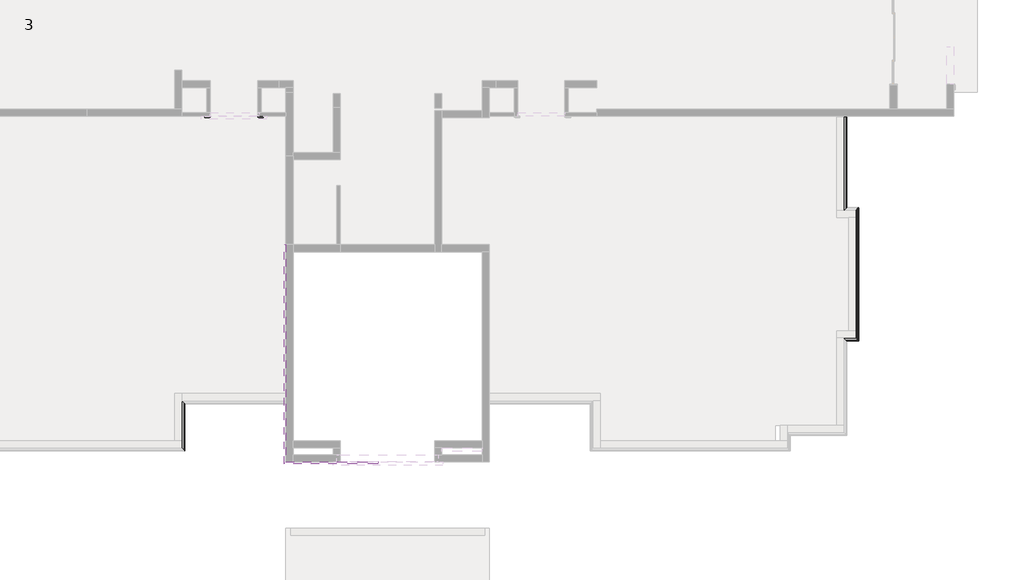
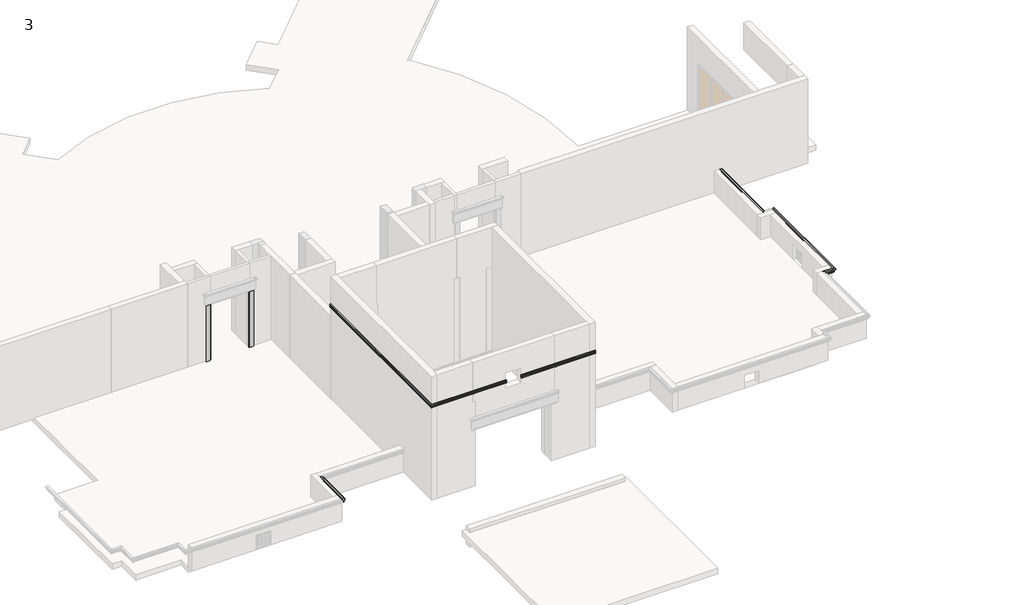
# One storey, part 8 of 12: 4 proxies.
"""IFC4 building model written with IfcOpenShell, lengths in millimetres."""

import ifcopenshell
import ifcopenshell.guid

model = None  # the IFC model being written
_history = None  # IfcOwnerHistory: only IFC2X3 demands one
_inside = {}  # id of a spatial element -> (the spatial element, [elements in it])
_under = {}  # id of a project, library or spatial element -> (it, [spatial elements below it])
_declared = {}  # id of a project -> (the project, [libraries it declares])
_typed = {}  # id of a type object -> (the type object, [elements of that type])
_made_of = {}  # id of a material, layer set ... -> (it, [elements and type objects made of it])


def new_model(schema):
    """Start an empty IFC model of exactly this schema.

    Asked for "IFC4X3", IfcOpenShell would pick the latest addendum, in which some entities
    have other attributes; the version numbers below select the first issue.
    IFC2X3 requires an IfcOwnerHistory on every rooted entity: one is made here for all.
    """
    global model, _history
    if schema == "IFC4X3":
        model = ifcopenshell.file(schema_version=(4, 3, 0, 0))
    else:
        model = ifcopenshell.file(schema=schema)
    _inside.clear()
    _under.clear()
    _declared.clear()
    _typed.clear()
    _made_of.clear()
    _history = None
    if model.schema == "IFC2X3":
        org = make("IfcOrganization", Name="unknown")
        user = make(
            "IfcPersonAndOrganization",
            ThePerson=make("IfcPerson", FamilyName="unknown"),
            TheOrganization=org,
        )
        app = make(
            "IfcApplication",
            ApplicationDeveloper=org,
            Version="unknown",
            ApplicationFullName="unknown",
            ApplicationIdentifier="unknown",
        )
        _history = make(
            "IfcOwnerHistory",
            OwningUser=user,
            OwningApplication=app,
            ChangeAction="ADDED",
            CreationDate=0,
        )
    return model


def make(cls, **values):
    """One entity of the class cls with the attributes given. An attribute that is None is left unset."""
    return model.create_entity(
        cls, **{name: value for name, value in values.items() if value is not None}
    )


def rooted(cls, **values):
    """An entity with a GlobalId (a new one), such as an element, a storey or a relation."""
    return make(cls, GlobalId=ifcopenshell.guid.new(), OwnerHistory=_history, **values)


def si_unit(unit_type, name, prefix=None):
    """IfcSIUnit, for example si_unit("LENGTHUNIT", "METRE", prefix="MILLI")."""
    return make("IfcSIUnit", UnitType=unit_type, Prefix=prefix, Name=name)


def assignment(units):
    """IfcUnitAssignment: the units of a project."""
    return None if units is None else make("IfcUnitAssignment", Units=units)


def point(xyz):
    """IfcCartesianPoint."""
    return None if xyz is None else make("IfcCartesianPoint", Coordinates=xyz)


def direction(xyz):
    """IfcDirection."""
    return None if xyz is None else make("IfcDirection", DirectionRatios=xyz)


def frame(location, z_axis=None, x_axis=None):
    """IfcAxis2Placement3D, a coordinate frame: its origin and axes. An axis left out is left unset."""
    return make(
        "IfcAxis2Placement3D",
        Location=point(location),
        Axis=direction(z_axis),
        RefDirection=direction(x_axis),
    )


def origin():
    """The frame at (0, 0, 0) with its axes left unset."""
    return frame((0.0, 0.0, 0.0))


def place(relative_to, where):
    """IfcLocalPlacement: puts the frame where relative to a parent placement (None: the world)."""
    return make(
        "IfcLocalPlacement", PlacementRelTo=relative_to, RelativePlacement=where
    )


def context(
    kind, dimensions, precision=None, world=None, true_north=None, identifier=None
):
    """IfcGeometricRepresentationContext, for example the 3D "Model" context."""
    return make(
        "IfcGeometricRepresentationContext",
        ContextIdentifier=identifier,
        ContextType=kind,
        CoordinateSpaceDimension=dimensions,
        Precision=precision,
        WorldCoordinateSystem=world,
        TrueNorth=true_north,
    )


def project(units=None, contexts=None):
    """IfcProject with its units and contexts."""
    return rooted(
        "IfcProject",
        Name="project",
        RepresentationContexts=contexts,
        UnitsInContext=assignment(units),
    )


def spatial(cls, under=None, at=None, **own):
    """A site, building, storey or space (cls), placed at a placement, below another one or the project."""
    s = rooted(cls, ObjectPlacement=at, **own)
    if under is not None:
        _under.setdefault(under.id(), (under, []))[1].append(s)
    return s


def polyline(points):
    """IfcPolyline through the points."""
    return make("IfcPolyline", Points=[point(p) for p in points])


def circle_curve(where, radius):
    """IfcCircle in the frame where."""
    return make("IfcCircle", Position=where, Radius=radius)


def ellipse_curve(where, semi_axis1, semi_axis2):
    """IfcEllipse in the frame where."""
    return make(
        "IfcEllipse", Position=where, SemiAxis1=semi_axis1, SemiAxis2=semi_axis2
    )


def outline(outer, holes=None, kind="AREA"):
    """IfcArbitraryClosedProfileDef: a profile drawn as a closed curve; with holes, ...WithVoids."""
    if holes is None:
        return make("IfcArbitraryClosedProfileDef", ProfileType=kind, OuterCurve=outer)
    return make(
        "IfcArbitraryProfileDefWithVoids",
        ProfileType=kind,
        OuterCurve=outer,
        InnerCurves=holes,
    )


def extrude(swept, where, along, depth):
    """IfcExtrudedAreaSolid: the profile swept, set in the frame where, extruded along a direction by depth."""
    return make(
        "IfcExtrudedAreaSolid",
        SweptArea=swept,
        Position=where,
        ExtrudedDirection=direction(along),
        Depth=depth,
    )


def shape(context_of_items, identifier, shape_type, items):
    """IfcShapeRepresentation: the items that make up one representation, for example the "Body"."""
    return make(
        "IfcShapeRepresentation",
        ContextOfItems=context_of_items,
        RepresentationIdentifier=identifier,
        RepresentationType=shape_type,
        Items=items,
    )


def made_of(thing, what):
    """Note that an element or type object is made of a material, layer set ...; save() writes the relation."""
    if what is not None:
        _made_of.setdefault(what.id(), (what, []))[1].append(thing)
    return thing


def element(
    cls,
    number,
    at=None,
    inside=None,
    cuts=None,
    type_object=None,
    material=None,
    context=None,
    identifier="Body",
    shape_type=None,
    held_by="IfcProductDefinitionShape",
    body=None,
    shapes=None,
    **own,
):
    """One element of the class cls, such as IfcWall. Its Tag is "e" and its number.

    at: its placement. inside: the storey or other place that contains it. cuts: it is an
    opening in that element (IfcRelVoidsElement). A single representation is given by context,
    identifier, shape_type and body (its items); several are given by shapes. held_by: the class
    of the entity that holds the representations. save() writes the other relations.
    """
    e = rooted(cls, Tag="e%d" % number, ObjectPlacement=at, **own)
    if body is not None:
        shapes = [shape(context, identifier, shape_type, body)]
    if shapes is not None:
        e.Representation = make(held_by, Representations=shapes)
    if inside is not None:
        _inside.setdefault(inside.id(), (inside, []))[1].append(e)
    if cuts is not None:
        rooted(
            "IfcRelVoidsElement", RelatingBuildingElement=cuts, RelatedOpeningElement=e
        )
    if type_object is not None:
        _typed.setdefault(type_object.id(), (type_object, []))[1].append(e)
    return made_of(e, material)


def aggregate(whole, parts):
    """IfcRelAggregates: a whole, such as a stair, and the parts it consists of."""
    return rooted("IfcRelAggregates", RelatingObject=whole, RelatedObjects=parts)


def save(model, path):
    """Write the relations noted so far, then the file.

    IfcRelAggregates (storeys below a building ...), IfcRelContainedInSpatialStructure (elements
    in a storey), IfcRelDefinesByType, IfcRelAssociatesMaterial and IfcRelDeclares: one each for
    every whole, place, type object, material and project.
    """
    for whole, parts in _under.values():
        aggregate(whole, parts)
    for where, things in _inside.values():
        rooted(
            "IfcRelContainedInSpatialStructure",
            RelatedElements=things,
            RelatingStructure=where,
        )
    for kind, things in _typed.values():
        rooted("IfcRelDefinesByType", RelatedObjects=things, RelatingType=kind)
    for what, things in _made_of.values():
        rooted("IfcRelAssociatesMaterial", RelatedObjects=things, RelatingMaterial=what)
    for by, libraries in _declared.values():
        rooted("IfcRelDeclares", RelatingContext=by, RelatedDefinitions=libraries)
    model.write(path)


def plane_surface(at):
    """IfcPlane: the flat surface through the origin of the frame at, square to its z axis."""
    return make("IfcPlane", Position=at)


def cylinder_surface(at, radius):
    """IfcCylindricalSurface: all points at the distance radius from the z axis of the frame at."""
    return make("IfcCylindricalSurface", Position=at, Radius=radius)


def revolved_surface(curve, axis_point, axis_direction):
    """IfcSurfaceOfRevolution: the curve turned about the line through axis_point along axis_direction."""
    return make(
        "IfcSurfaceOfRevolution",
        SweptCurve=make("IfcArbitraryOpenProfileDef", ProfileType="CURVE", Curve=curve),
        AxisPosition=make("IfcAxis1Placement", Location=point(axis_point), Axis=direction(axis_direction)),
    )


def advanced_brep(points, edges, surfaces, faces):
    """IfcAdvancedBrep: a solid bounded by faces that lie on surfaces and meet in shared edges.

    An edge is (start, end): straight between two places in points (the first is 0);
    or (start, end, curve); or (start, end, curve, False) where it runs against its curve.
    A face is (place in surfaces, loops), or (place, loops, False) where it looks against
    its surface's normal. A loop lists edges by number (the first is 1), with a minus sign
    where the edge is run from its end to its start. The first loop is the outer one.
    """
    corners = [point(p) for p in points]
    vertices = [make("IfcVertexPoint", VertexGeometry=c) for c in corners]
    made = []
    for start, end, *more in edges:
        made.append(
            make(
                "IfcEdgeCurve",
                EdgeStart=vertices[start],
                EdgeEnd=vertices[end],
                EdgeGeometry=more[0] if more else make("IfcPolyline", Points=[corners[start], corners[end]]),
                SameSense=more[1] if len(more) > 1 else True,
            )
        )
    hull = []
    for where, loops, *sense in faces:
        bounds = []
        for j, loop in enumerate(loops):
            ring = [make("IfcOrientedEdge", EdgeElement=made[abs(k) - 1], Orientation=k > 0) for k in loop]
            bounds.append(
                make(
                    "IfcFaceOuterBound" if j == 0 else "IfcFaceBound",
                    Bound=make("IfcEdgeLoop", EdgeList=ring),
                    Orientation=True,
                )
            )
        hull.append(make("IfcAdvancedFace", Bounds=bounds, FaceSurface=surfaces[where], SameSense=sense[0] if sense else True))
    return make("IfcAdvancedBrep", Outer=make("IfcClosedShell", CfsFaces=hull))


model = new_model("IFC4")

# Units and contexts
model_context = context("Model", 3, world=origin())
ifc_project = project(units=[si_unit("LENGTHUNIT", "METRE", prefix="MILLI")], contexts=[model_context])

# Site, building, storey
site = spatial("IfcSite", under=ifc_project)
building = spatial("IfcBuilding", under=site)
storey = spatial("IfcBuildingStorey", under=building, Name="3", Elevation=3581.4)

# Proxies
placement = place(None, origin())
element("IfcBuildingElementProxy", 1, Name="Cornice", ObjectType="Cornice", at=placement, inside=storey, context=model_context, shape_type="SweptSolid", body=[
    extrude(outline(polyline([(-14287.7450906, -4496.3193311), (-14103.5950906, -4496.3193311), (-14103.5950906, -4534.4193311), (-14135.3450906, -4534.4193311), (-14135.3450906, -4547.1193311), (-14287.7450906, -4547.1193311), (-14287.7450906, -4496.3193311)])), frame((0.0, 0.0, 3581.4), z_axis=(0.0, 0.0, 1.0), x_axis=(1.0, 0.0, 0.0)), (0.0, 0.0, 1.0), 2438.4),
])
element("IfcBuildingElementProxy", 2, Name="Cornice", ObjectType="Cornice", at=placement, inside=storey, context=model_context, shape_type="SweptSolid", body=[
    extrude(outline(polyline([(-12395.4450906, -4496.3193311), (-12395.4450906, -4547.1193311), (-12547.8450906, -4547.1193311), (-12547.8450906, -4534.4193311), (-12579.5950906, -4534.4193311), (-12579.5950906, -4496.3193311), (-12395.4450906, -4496.3193311)])), frame((0.0, 0.0, 3581.4), z_axis=(0.0, 0.0, 1.0), x_axis=(1.0, 0.0, 0.0)), (0.0, 0.0, 1.0), 2438.4),
])
element("IfcBuildingElementProxy", 3, Name="Cornice 3", ObjectType="Cornice 3", at=placement, inside=storey, context=model_context, shape_type="AdvancedBrep", body=[
    advanced_brep(
    [(6393.2878641, -11734.5181763, 4572.0), (6317.0878641, -11658.3181763, 4572.0), (6317.0878641, -11658.3181763, 4419.6), (6367.8878641, -11709.1181763, 4419.6), (6367.8878641, -11709.1181763, 4438.65), (6367.8878641, -11709.1181763, 4457.7), (6367.8878641, -11709.1181763, 4483.1), (6375.0316141, -11716.2619263, 4483.1), (6393.2878641, -11734.5181763, 4512.5009114), (6393.2878641, -11734.5181763, 4527.55), (6774.1385697, -11734.5181763, 4572.0), (6774.1385697, -11734.5181763, 4527.55), (6774.1385697, -11734.5181763, 4512.5009114), (6755.8823197, -11716.2619263, 4483.1), (6748.7385697, -11709.1181763, 4483.1), (6748.7385697, -11709.1181763, 4457.7), (6748.7385697, -11709.1181763, 4438.65), (6748.7385697, -11709.1181763, 4419.6), (6697.9385697, -11658.3181763, 4419.6), (6697.9385697, -11658.3181763, 4572.0)],
    [
        (0, 1),
        (1, 2),
        (2, 3),
        (3, 4),
        (4, 5, ellipse_curve(frame((6367.8878641, -11709.1181763, 4448.175), z_axis=(-0.7071067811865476, -0.7071067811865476, 0.0), x_axis=(-0.7071067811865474, 0.7071067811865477, 0.0)), 13.4703842, 9.525)),
        (5, 6),
        (6, 7),
        (7, 8, ellipse_curve(frame((6396.5442626, -11737.7745748, 4490.1103895), z_axis=(0.7071067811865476, 0.7071067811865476, 0.0), x_axis=(0.7071067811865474, -0.7071067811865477, 0.0)), 31.9981126, 22.6260824)),
        (8, 9),
        (9, 0, ellipse_curve(frame((6393.2878641, -11734.5181763, 4549.775), z_axis=(-0.7071067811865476, -0.7071067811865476, 0.0), x_axis=(-0.7071067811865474, 0.7071067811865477, 0.0)), 31.4308964, 22.225)),
        (10, 11, ellipse_curve(frame((6774.1385697, -11734.5181763, 4549.775), z_axis=(0.7071067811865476, 0.7071067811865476, 0.0), x_axis=(-0.7071067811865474, 0.7071067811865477, 0.0)), 31.4308964, 22.225)),
        (11, 12),
        (12, 13, ellipse_curve(frame((6777.3949682, -11737.7745748, 4490.1103895), z_axis=(-0.7071067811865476, -0.7071067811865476, 0.0), x_axis=(0.7071067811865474, -0.7071067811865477, 0.0)), 31.9981126, 22.6260824)),
        (13, 14),
        (14, 15),
        (15, 16, ellipse_curve(frame((6748.7385697, -11709.1181763, 4448.175), z_axis=(0.7071067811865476, 0.7071067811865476, 0.0), x_axis=(-0.7071067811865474, 0.7071067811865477, 0.0)), 13.4703842, 9.525)),
        (16, 17),
        (17, 18),
        (18, 19),
        (19, 10),
        (0, 10),
        (19, 1),
        (18, 2),
        (17, 3),
        (16, 4),
        (15, 5),
        (14, 6),
        (13, 7),
        (12, 8),
        (11, 9),
    ],
    [
        plane_surface(frame((6317.0878641, -11658.3181763, 4724.4), z_axis=(-0.7071067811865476, -0.7071067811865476, 0.0), x_axis=(0.7071067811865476, -0.7071067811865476, 0.0))),
        plane_surface(frame((6697.9385697, -11658.3181763, 4114.8), z_axis=(0.7071067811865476, 0.7071067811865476, 0.0), x_axis=(-0.7071067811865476, 0.7071067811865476, 0.0))),
        plane_surface(frame((6393.2878641, -11734.5181763, 4572.0), z_axis=(0.0, 0.0, 1.0), x_axis=(1.0, 0.0, 0.0))),
        plane_surface(frame((6317.0878641, -11658.3181763, 4572.0), z_axis=(0.0, 1.0, 0.0), x_axis=(1.0, 0.0, 0.0))),
        plane_surface(frame((6317.0878641, -11658.3181763, 4419.6), z_axis=(0.0, 0.0, -1.0), x_axis=(1.0, 0.0, 0.0))),
        plane_surface(frame((6367.8878641, -11709.1181763, 4419.6), z_axis=(0.0, -1.0, 0.0), x_axis=(1.0, 0.0, 0.0))),
        cylinder_surface(frame((6317.0878641, -11709.1181763, 4448.175), z_axis=(-1.0, 0.0, 0.0), x_axis=(0.0, 1.0, 0.0)), 9.525),
        plane_surface(frame((6367.8878641, -11709.1181763, 4457.7), z_axis=(0.0, -1.0, 0.0), x_axis=(1.0, 0.0, 0.0))),
        plane_surface(frame((6367.8878641, -11709.1181763, 4483.1), z_axis=(0.0, 0.0, -1.0), x_axis=(1.0, 0.0, 0.0))),
        revolved_surface(polyline([(6800.021050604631, -11715.1484924, 4490.1103895), (6373.91818019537, -11715.1484924, 4490.1103895)]), (6317.0878641, -11737.7745748, 4490.1103895), (1.0, 0.0, 0.0)),
        plane_surface(frame((6393.2878641, -11734.5181763, 4512.5009114), z_axis=(0.0, -1.0, 0.0), x_axis=(1.0, 0.0, 0.0))),
        cylinder_surface(frame((6317.0878641, -11734.5181763, 4549.775), z_axis=(-1.0, 0.0, 0.0), x_axis=(0.0, 1.0, 0.0)), 22.225),
    ],
    [
        (0, [[1, 2, 3, 4, 5, 6, 7, 8, 9, 10]]),
        (1, [[11, 12, 13, 14, 15, 16, 17, 18, 19, 20]]),
        (2, [[-1, 21, -20, 22]]),
        (3, [[-2, -22, -19, 23]]),
        (4, [[-3, -23, -18, 24]]),
        (5, [[-4, -24, -17, 25]]),
        (6, [[-5, -25, -16, 26]]),
        (7, [[-6, -26, -15, 27]]),
        (8, [[-7, -27, -14, 28]]),
        (9, [[-8, -28, -13, 29]]),
        (10, [[-9, -29, -12, 30]]),
        (11, [[-10, -30, -11, -21]]),
    ],
),
    advanced_brep(
    [(6774.1385697, -11734.5181763, 4572.0), (6697.9385697, -11658.3181763, 4572.0), (6697.9385697, -11658.3181763, 4419.6), (6748.7385697, -11709.1181763, 4419.6), (6748.7385697, -11709.1181763, 4438.65), (6748.7385697, -11709.1181763, 4457.7), (6748.7385697, -11709.1181763, 4483.1), (6755.8823197, -11716.2619263, 4483.1), (6774.1385697, -11734.5181763, 4512.5009114), (6774.1385697, -11734.5181763, 4527.55), (6774.1385697, -7467.3181763, 4572.0), (6774.1385697, -7467.3181763, 4527.55), (6774.1385697, -7467.3181763, 4512.5009114), (6755.8823197, -7485.5744263, 4483.1), (6748.7385697, -7492.7181763, 4483.1), (6748.7385697, -7492.7181763, 4457.7), (6748.7385697, -7492.7181763, 4438.65), (6748.7385697, -7492.7181763, 4419.6), (6697.9385697, -7543.5181763, 4419.6), (6697.9385697, -7543.5181763, 4572.0)],
    [
        (0, 1),
        (1, 2),
        (2, 3),
        (3, 4),
        (4, 5, ellipse_curve(frame((6748.7385697, -11709.1181763, 4448.175), z_axis=(-0.7071067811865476, -0.7071067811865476, 0.0), x_axis=(0.7071067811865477, -0.7071067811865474, 0.0)), 13.4703842, 9.525)),
        (5, 6),
        (6, 7),
        (7, 8, ellipse_curve(frame((6777.3949682, -11737.7745748, 4490.1103895), z_axis=(0.7071067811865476, 0.7071067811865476, 0.0), x_axis=(-0.7071067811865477, 0.7071067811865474, 0.0)), 31.9981126, 22.6260824)),
        (8, 9),
        (9, 0, ellipse_curve(frame((6774.1385697, -11734.5181763, 4549.775), z_axis=(-0.7071067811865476, -0.7071067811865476, 0.0), x_axis=(0.7071067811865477, -0.7071067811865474, 0.0)), 31.4308964, 22.225)),
        (10, 11, ellipse_curve(frame((6774.1385697, -7467.3181763, 4549.775), z_axis=(-0.7071067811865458, 0.7071067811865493, 0.0), x_axis=(-0.7071067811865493, -0.7071067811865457, 0.0)), 31.4308964, 22.225)),
        (11, 12),
        (12, 13, ellipse_curve(frame((6777.3949682, -7464.0617778, 4490.1103895), z_axis=(0.7071067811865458, -0.7071067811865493, 0.0), x_axis=(0.7071067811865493, 0.7071067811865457, 0.0)), 31.9981126, 22.6260824)),
        (13, 14),
        (14, 15),
        (15, 16, ellipse_curve(frame((6748.7385697, -7492.7181763, 4448.175), z_axis=(-0.7071067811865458, 0.7071067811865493, 0.0), x_axis=(-0.7071067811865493, -0.7071067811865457, 0.0)), 13.4703842, 9.525)),
        (16, 17),
        (17, 18),
        (18, 19),
        (19, 10),
        (0, 10),
        (19, 1),
        (18, 2),
        (17, 3),
        (16, 4),
        (15, 5),
        (14, 6),
        (13, 7),
        (12, 8),
        (11, 9),
    ],
    [
        plane_surface(frame((6697.9385697, -11658.3181763, 4114.8), z_axis=(-0.7071067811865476, -0.7071067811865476, 0.0), x_axis=(-0.7071067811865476, 0.7071067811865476, 0.0))),
        plane_surface(frame((6697.9385697, -7543.5181763, 4114.8), z_axis=(-0.7071067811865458, 0.7071067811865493, 0.0), x_axis=(-0.7071067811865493, -0.7071067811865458, 0.0))),
        plane_surface(frame((6774.1385697, -11734.5181763, 4572.0), z_axis=(0.0, 0.0, 1.0), x_axis=(0.0, 1.0, 0.0))),
        plane_surface(frame((6697.9385697, -11658.3181763, 4572.0), z_axis=(-1.0, 0.0, 0.0), x_axis=(0.0, 1.0, 0.0))),
        plane_surface(frame((6697.9385697, -11658.3181763, 4419.6), z_axis=(0.0, 0.0, -1.0), x_axis=(0.0, 1.0, 0.0))),
        plane_surface(frame((6748.7385697, -11709.1181763, 4419.6), z_axis=(1.0, 0.0, 0.0), x_axis=(0.0, 1.0, 0.0))),
        cylinder_surface(frame((6748.7385697, -11658.3181763, 4448.175), z_axis=(0.0, -1.0, 0.0), x_axis=(-1.0, 0.0, 0.0)), 9.525),
        plane_surface(frame((6748.7385697, -11709.1181763, 4457.7), z_axis=(1.0, 0.0, 0.0), x_axis=(0.0, 1.0, 0.0))),
        plane_surface(frame((6748.7385697, -11709.1181763, 4483.1), z_axis=(0.0, 0.0, -1.0), x_axis=(0.0, 1.0, 0.0))),
        revolved_surface(polyline([(6754.7688858, -7441.435695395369, 4490.1103895), (6754.7688858, -11760.400657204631, 4490.1103895)]), (6777.3949682, -11658.3181763, 4490.1103895), (0.0, 1.0, 0.0)),
        plane_surface(frame((6774.1385697, -11734.5181763, 4512.5009114), z_axis=(1.0, 0.0, 0.0), x_axis=(0.0, 1.0, 0.0))),
        cylinder_surface(frame((6774.1385697, -11658.3181763, 4549.775), z_axis=(0.0, -1.0, 0.0), x_axis=(-1.0, 0.0, 0.0)), 22.225),
    ],
    [
        (0, [[1, 2, 3, 4, 5, 6, 7, 8, 9, 10]]),
        (1, [[11, 12, 13, 14, 15, 16, 17, 18, 19, 20]]),
        (2, [[-1, 21, -20, 22]]),
        (3, [[-2, -22, -19, 23]]),
        (4, [[-3, -23, -18, 24]]),
        (5, [[-4, -24, -17, 25]]),
        (6, [[-5, -25, -16, 26]]),
        (7, [[-6, -26, -15, 27]]),
        (8, [[-7, -27, -14, 28]]),
        (9, [[-8, -28, -13, 29]]),
        (10, [[-9, -29, -12, 30]]),
        (11, [[-10, -30, -11, -21]]),
    ],
),
    advanced_brep(
    [(6393.2878641, -7467.3181763, 4572.0), (6317.0878641, -7543.5181763, 4572.0), (6317.0878641, -7543.5181763, 4419.6), (6367.8878641, -7492.7181763, 4419.6), (6367.8878641, -7492.7181763, 4438.65), (6367.8878641, -7492.7181763, 4457.7), (6367.8878641, -7492.7181763, 4483.1), (6375.0316141, -7485.5744263, 4483.1), (6393.2878641, -7467.3181763, 4512.5009114), (6393.2878641, -7467.3181763, 4527.55), (6393.2878641, -4533.6181763, 4572.0), (6393.2878641, -4533.6181763, 4527.55), (6393.2878641, -4533.6181763, 4512.5009114), (6375.0316141, -4533.6181763, 4483.1), (6367.8878641, -4533.6181763, 4483.1), (6367.8878641, -4533.6181763, 4457.7), (6367.8878641, -4533.6181763, 4438.65), (6367.8878641, -4533.6181763, 4419.6), (6317.0878641, -4533.6181763, 4419.6), (6317.0878641, -4533.6181763, 4572.0)],
    [
        (0, 1),
        (1, 2),
        (2, 3),
        (3, 4),
        (4, 5, ellipse_curve(frame((6367.8878641, -7492.7181763, 4448.175), z_axis=(0.7071067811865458, -0.7071067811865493, 0.0), x_axis=(-0.7071067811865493, -0.7071067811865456, 0.0)), 13.4703842, 9.525)),
        (5, 6),
        (6, 7),
        (7, 8, ellipse_curve(frame((6396.5442626, -7464.0617778, 4490.1103895), z_axis=(-0.7071067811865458, 0.7071067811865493, 0.0), x_axis=(0.7071067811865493, 0.7071067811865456, 0.0)), 31.9981126, 22.6260824)),
        (8, 9),
        (9, 0, ellipse_curve(frame((6393.2878641, -7467.3181763, 4549.775), z_axis=(0.7071067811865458, -0.7071067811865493, 0.0), x_axis=(-0.7071067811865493, -0.7071067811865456, 0.0)), 31.4308964, 22.225)),
        (10, 11, circle_curve(frame((6393.2878641, -4533.6181763, 4549.775), z_axis=(0.0, 1.0, 0.0), x_axis=(-1.0, 0.0, 0.0)), 22.225)),
        (11, 12),
        (12, 13, circle_curve(frame((6396.5442626, -4533.6181763, 4490.1103895), z_axis=(0.0, -1.0, 0.0), x_axis=(-1.0, 0.0, 0.0)), 22.6260824)),
        (13, 14),
        (14, 15),
        (15, 16, circle_curve(frame((6367.8878641, -4533.6181763, 4448.175), z_axis=(0.0, 1.0, 0.0), x_axis=(-1.0, 0.0, 0.0)), 9.525)),
        (16, 17),
        (17, 18),
        (18, 19),
        (19, 10),
        (0, 10),
        (19, 1),
        (18, 2),
        (17, 3),
        (16, 4),
        (15, 5),
        (14, 6),
        (13, 7),
        (12, 8),
        (11, 9),
    ],
    [
        plane_surface(frame((6317.0878641, -7543.5181763, 4724.4), z_axis=(0.7071067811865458, -0.7071067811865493, 0.0), x_axis=(0.7071067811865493, 0.7071067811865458, 0.0))),
        plane_surface(frame((6144.1196571, -4533.6181763, 4419.6), z_axis=(0.0, 1.0, 0.0), x_axis=(0.0, 0.0, 1.0))),
        plane_surface(frame((6393.2878641, -7467.3181763, 4572.0), z_axis=(0.0, 0.0, 1.0), x_axis=(0.0, 1.0, 0.0))),
        plane_surface(frame((6317.0878641, -7543.5181763, 4572.0), z_axis=(-1.0, 0.0, 0.0), x_axis=(0.0, 1.0, 0.0))),
        plane_surface(frame((6317.0878641, -7543.5181763, 4419.6), z_axis=(0.0, 0.0, -1.0), x_axis=(0.0, 1.0, 0.0))),
        plane_surface(frame((6367.8878641, -7492.7181763, 4419.6), z_axis=(1.0, 0.0, 0.0), x_axis=(0.0, 1.0, 0.0))),
        cylinder_surface(frame((6367.8878641, -7543.5181763, 4448.175), z_axis=(0.0, -1.0, 0.0), x_axis=(-1.0, 0.0, 0.0)), 9.525),
        plane_surface(frame((6367.8878641, -7492.7181763, 4457.7), z_axis=(1.0, 0.0, 0.0), x_axis=(0.0, 1.0, 0.0))),
        plane_surface(frame((6367.8878641, -7492.7181763, 4483.1), z_axis=(0.0, 0.0, -1.0), x_axis=(0.0, 1.0, 0.0))),
        revolved_surface(polyline([(6373.9181802, -4533.6181763, 4490.1103895), (6373.9181802, -7486.68786020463, 4490.1103895)]), (6396.5442626, -7543.5181763, 4490.1103895), (0.0, 1.0, 0.0)),
        plane_surface(frame((6393.2878641, -7467.3181763, 4512.5009114), z_axis=(1.0, 0.0, 0.0), x_axis=(0.0, 1.0, 0.0))),
        cylinder_surface(frame((6393.2878641, -7543.5181763, 4549.775), z_axis=(0.0, -1.0, 0.0), x_axis=(-1.0, 0.0, 0.0)), 22.225),
    ],
    [
        (0, [[1, 2, 3, 4, 5, 6, 7, 8, 9, 10]]),
        (1, [[11, 12, 13, 14, 15, 16, 17, 18, 19, 20]]),
        (2, [[-1, 21, -20, 22]]),
        (3, [[-2, -22, -19, 23]]),
        (4, [[-3, -23, -18, 24]]),
        (5, [[-4, -24, -17, 25]]),
        (6, [[-5, -25, -16, 26]]),
        (7, [[-6, -26, -15, 27]]),
        (8, [[-7, -27, -14, 28]]),
        (9, [[-8, -28, -13, 29]]),
        (10, [[-9, -29, -12, 30]]),
        (11, [[-10, -30, -11, -21]]),
    ],
),
    advanced_brep(
    [(-14941.7950906, -15278.6193311, 4572.0), (-15017.9950906, -15202.4193311, 4572.0), (-15017.9950906, -15202.4193311, 4419.6), (-14967.1950906, -15253.2193311, 4419.6), (-14967.1950906, -15253.2193311, 4438.65), (-14967.1950906, -15253.2193311, 4457.7), (-14967.1950906, -15253.2193311, 4483.1), (-14960.0513406, -15260.3630811, 4483.1), (-14941.7950906, -15278.6193311, 4512.5009114), (-14941.7950906, -15278.6193311, 4527.55), (-14941.7950906, -13753.8181763, 4572.0), (-14941.7950906, -13753.8181763, 4527.55), (-14941.7950906, -13753.8181763, 4512.5009114), (-14960.0513406, -13735.5619263, 4483.1), (-14967.1950906, -13728.4181763, 4483.1), (-14967.1950906, -13728.4181763, 4457.7), (-14967.1950906, -13728.4181763, 4438.65), (-14967.1950906, -13728.4181763, 4419.6), (-15017.9950906, -13677.6181763, 4419.6), (-15017.9950906, -13677.6181763, 4572.0)],
    [
        (0, 1),
        (1, 2),
        (2, 3),
        (3, 4),
        (4, 5, ellipse_curve(frame((-14967.1950906, -15253.2193311, 4448.175), z_axis=(-0.7071067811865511, -0.707106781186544, 0.0), x_axis=(0.707106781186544, -0.707106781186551, 0.0)), 13.4703842, 9.525)),
        (5, 6),
        (6, 7),
        (7, 8, ellipse_curve(frame((-14938.5386921, -15281.8757296, 4490.1103895), z_axis=(0.7071067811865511, 0.707106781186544, 0.0), x_axis=(-0.707106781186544, 0.707106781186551, 0.0)), 31.9981126, 22.6260824)),
        (8, 9),
        (9, 0, ellipse_curve(frame((-14941.7950906, -15278.6193311, 4549.775), z_axis=(-0.7071067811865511, -0.707106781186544, 0.0), x_axis=(0.707106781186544, -0.707106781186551, 0.0)), 31.4308964, 22.225)),
        (10, 11, ellipse_curve(frame((-14941.7950906, -13753.8181763, 4549.775), z_axis=(0.7071067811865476, 0.7071067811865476, 0.0), x_axis=(0.7071067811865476, -0.7071067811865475, 0.0)), 31.4308964, 22.225)),
        (11, 12),
        (12, 13, ellipse_curve(frame((-14938.5386921, -13757.0745748, 4490.1103895), z_axis=(-0.7071067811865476, -0.7071067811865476, 0.0), x_axis=(-0.7071067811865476, 0.7071067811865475, 0.0)), 31.9981126, 22.6260824)),
        (13, 14),
        (14, 15),
        (15, 16, ellipse_curve(frame((-14967.1950906, -13728.4181763, 4448.175), z_axis=(0.7071067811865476, 0.7071067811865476, 0.0), x_axis=(0.7071067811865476, -0.7071067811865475, 0.0)), 13.4703842, 9.525)),
        (16, 17),
        (17, 18),
        (18, 19),
        (19, 10),
        (0, 10),
        (19, 1),
        (18, 2),
        (17, 3),
        (16, 4),
        (15, 5),
        (14, 6),
        (13, 7),
        (12, 8),
        (11, 9),
    ],
    [
        plane_surface(frame((-15017.9950906, -15202.4193311, 4114.8), z_axis=(-0.7071067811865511, -0.707106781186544, 0.0), x_axis=(-0.707106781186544, 0.7071067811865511, 0.0))),
        plane_surface(frame((-15017.9950906, -13677.6181763, 4724.4), z_axis=(0.7071067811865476, 0.7071067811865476, 0.0), x_axis=(0.7071067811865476, -0.7071067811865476, 0.0))),
        plane_surface(frame((-14941.7950906, -15278.6193311, 4572.0), z_axis=(0.0, 0.0, 1.0), x_axis=(0.0, 1.0, 0.0))),
        plane_surface(frame((-15017.9950906, -15202.4193311, 4572.0), z_axis=(-1.0, 0.0, 0.0), x_axis=(0.0, 1.0, 0.0))),
        plane_surface(frame((-15017.9950906, -15202.4193311, 4419.6), z_axis=(0.0, 0.0, -1.0), x_axis=(0.0, 1.0, 0.0))),
        plane_surface(frame((-14967.1950906, -15253.2193311, 4419.6), z_axis=(1.0, 0.0, 0.0), x_axis=(0.0, 1.0, 0.0))),
        cylinder_surface(frame((-14967.1950906, -15202.4193311, 4448.175), z_axis=(0.0, -1.0, 0.0), x_axis=(-1.0, 0.0, 0.0)), 9.525),
        plane_surface(frame((-14967.1950906, -15253.2193311, 4457.7), z_axis=(1.0, 0.0, 0.0), x_axis=(0.0, 1.0, 0.0))),
        plane_surface(frame((-14967.1950906, -15253.2193311, 4483.1), z_axis=(0.0, 0.0, -1.0), x_axis=(0.0, 1.0, 0.0))),
        revolved_surface(polyline([(-14961.164774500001, -13734.44849239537, 4490.1103895), (-14961.164774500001, -15304.501812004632, 4490.1103895)]), (-14938.5386921, -15202.4193311, 4490.1103895), (0.0, 1.0, 0.0)),
        plane_surface(frame((-14941.7950906, -15278.6193311, 4512.5009114), z_axis=(1.0, 0.0, 0.0), x_axis=(0.0, 1.0, 0.0))),
        cylinder_surface(frame((-14941.7950906, -15202.4193311, 4549.775), z_axis=(0.0, -1.0, 0.0), x_axis=(-1.0, 0.0, 0.0)), 22.225),
    ],
    [
        (0, [[1, 2, 3, 4, 5, 6, 7, 8, 9, 10]]),
        (1, [[11, 12, 13, 14, 15, 16, 17, 18, 19, 20]]),
        (2, [[-1, 21, -20, 22]]),
        (3, [[-2, -22, -19, 23]]),
        (4, [[-3, -23, -18, 24]]),
        (5, [[-4, -24, -17, 25]]),
        (6, [[-5, -25, -16, 26]]),
        (7, [[-6, -26, -15, 27]]),
        (8, [[-7, -27, -14, 28]]),
        (9, [[-8, -28, -13, 29]]),
        (10, [[-9, -29, -12, 30]]),
        (11, [[-10, -30, -11, -21]]),
    ],
),
])
element("IfcBuildingElementProxy", 4, Name="Cornice 5", ObjectType="Cornice 5", at=placement, inside=storey, context=model_context, shape_type="AdvancedBrep", body=[
    advanced_brep(
    [(-11665.1950906, -15659.6193311, 7664.45), (-11665.1950906, -15659.6193311, 7543.8), (-11703.2950906, -15697.7193311, 7543.8), (-11703.2950906, -15697.7193311, 7569.2), (-11690.5950906, -15685.0193311, 7569.2), (-11690.5950906, -15685.0193311, 7581.9), (-11690.5950906, -15685.0193311, 7626.35), (-11690.5950906, -15685.0193311, 7639.05), (-11703.2950906, -15697.7193311, 7639.05), (-11703.2950906, -15697.7193311, 7664.45), (-10027.044385, -15659.6193311, 7664.45), (-10027.044385, -15697.7193311, 7664.45), (-10027.044385, -15697.7193311, 7639.05), (-10027.044385, -15685.0193311, 7639.05), (-10027.044385, -15685.0193311, 7626.35), (-10027.044385, -15685.0193311, 7581.9), (-10027.044385, -15685.0193311, 7569.2), (-10027.044385, -15697.7193311, 7569.2), (-10027.044385, -15697.7193311, 7543.8), (-10027.044385, -15659.6193311, 7543.8)],
    [
        (0, 1),
        (1, 2),
        (2, 3, ellipse_curve(frame((-11703.2950906, -15697.7193311, 7556.5), z_axis=(-0.7071067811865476, 0.7071067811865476, 0.0), x_axis=(-0.7071067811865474, -0.7071067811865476, 0.0)), 17.9605122, 12.7)),
        (3, 4),
        (4, 5),
        (5, 6, ellipse_curve(frame((-11706.7856676, -15701.2099081, 7604.125), z_axis=(0.7071067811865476, -0.7071067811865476, 0.0), x_axis=(0.7071067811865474, 0.7071067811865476, 0.0)), 38.8866406, 27.4970073)),
        (6, 7),
        (7, 8),
        (8, 9, ellipse_curve(frame((-11703.2950906, -15697.7193311, 7651.75), z_axis=(-0.7071067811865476, 0.7071067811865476, 0.0), x_axis=(-0.7071067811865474, -0.7071067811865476, 0.0)), 17.9605122, 12.7)),
        (9, 0),
        (10, 11),
        (11, 12, circle_curve(frame((-10027.044385, -15697.7193311, 7651.75), z_axis=(1.0, 0.0, 0.0), x_axis=(0.0, -1.0, 0.0)), 12.7)),
        (12, 13),
        (13, 14),
        (14, 15, circle_curve(frame((-10027.044385, -15701.2099081, 7604.125), z_axis=(-1.0, 0.0, 0.0), x_axis=(0.0, -1.0, 0.0)), 27.4970073)),
        (15, 16),
        (16, 17),
        (17, 18, circle_curve(frame((-10027.044385, -15697.7193311, 7556.5), z_axis=(1.0, 0.0, 0.0), x_axis=(0.0, -1.0, 0.0)), 12.7)),
        (18, 19),
        (19, 10),
        (0, 10),
        (19, 1),
        (18, 2),
        (17, 3),
        (16, 4),
        (15, 5),
        (14, 6),
        (13, 7),
        (12, 8),
        (11, 9),
    ],
    [
        plane_surface(frame((-11665.1950906, -15659.6193311, 7239.0), z_axis=(-0.7071067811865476, 0.7071067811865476, 0.0), x_axis=(0.7071067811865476, 0.7071067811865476, 0.0))),
        plane_surface(frame((-10027.044385, -15354.8193311, 7543.8), z_axis=(1.0, 0.0, 0.0), x_axis=(0.0, 0.0, 1.0))),
        plane_surface(frame((-11665.1950906, -15659.6193311, 7664.45), z_axis=(0.0, 1.0, 0.0), x_axis=(1.0, 0.0, 0.0))),
        plane_surface(frame((-11665.1950906, -15659.6193311, 7543.8), z_axis=(0.0, 0.0, -1.0), x_axis=(1.0, 0.0, 0.0))),
        cylinder_surface(frame((-11665.1950906, -15697.7193311, 7556.5), z_axis=(-1.0, 0.0, 0.0), x_axis=(0.0, -1.0, 0.0)), 12.7),
        plane_surface(frame((-11703.2950906, -15697.7193311, 7569.2), z_axis=(0.0, 0.0, 1.0), x_axis=(1.0, 0.0, 0.0))),
        plane_surface(frame((-11690.5950906, -15685.0193311, 7569.2), z_axis=(0.0, -1.0, 0.0), x_axis=(1.0, 0.0, 0.0))),
        revolved_surface(polyline([(-10027.044385, -15728.7069154, 7604.125), (-11734.282674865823, -15728.7069154, 7604.125)]), (-11665.1950906, -15701.2099081, 7604.125), (1.0, 0.0, 0.0)),
        plane_surface(frame((-11690.5950906, -15685.0193311, 7626.35), z_axis=(0.0, -1.0, 0.0), x_axis=(1.0, 0.0, 0.0))),
        plane_surface(frame((-11690.5950906, -15685.0193311, 7639.05), z_axis=(0.0, 0.0, -1.0), x_axis=(1.0, 0.0, 0.0))),
        cylinder_surface(frame((-11665.1950906, -15697.7193311, 7651.75), z_axis=(-1.0, 0.0, 0.0), x_axis=(0.0, -1.0, 0.0)), 12.7),
        plane_surface(frame((-11703.2950906, -15697.7193311, 7664.45), z_axis=(0.0, 0.0, 1.0), x_axis=(1.0, 0.0, 0.0))),
    ],
    [
        (0, [[1, 2, 3, 4, 5, 6, 7, 8, 9, 10]]),
        (1, [[11, 12, 13, 14, 15, 16, 17, 18, 19, 20]]),
        (2, [[-1, 21, -20, 22]]),
        (3, [[-2, -22, -19, 23]]),
        (4, [[-3, -23, -18, 24]]),
        (5, [[-4, -24, -17, 25]]),
        (6, [[-5, -25, -16, 26]]),
        (7, [[-6, -26, -15, 27]]),
        (8, [[-7, -27, -14, 28]]),
        (9, [[-8, -28, -13, 29]]),
        (10, [[-9, -29, -12, 30]]),
        (11, [[-10, -30, -11, -21]]),
    ],
),
    advanced_brep(
    [(-8096.4950906, -15659.6193311, 7664.45), (-8096.4950906, -15659.6193311, 7543.8), (-8096.4950906, -15697.7193311, 7543.8), (-8096.4950906, -15697.7193311, 7569.2), (-8096.4950906, -15685.0193311, 7569.2), (-8096.4950906, -15685.0193311, 7581.9), (-8096.4950906, -15685.0193311, 7626.35), (-8096.4950906, -15685.0193311, 7639.05), (-8096.4950906, -15697.7193311, 7639.05), (-8096.4950906, -15697.7193311, 7664.45), (-6750.444385, -15659.6193311, 7664.45), (-6750.444385, -15697.7193311, 7664.45), (-6750.444385, -15697.7193311, 7639.05), (-6750.444385, -15685.0193311, 7639.05), (-6750.444385, -15685.0193311, 7626.35), (-6750.444385, -15685.0193311, 7581.9), (-6750.444385, -15685.0193311, 7569.2), (-6750.444385, -15697.7193311, 7569.2), (-6750.444385, -15697.7193311, 7543.8), (-6750.444385, -15659.6193311, 7543.8)],
    [
        (0, 1),
        (1, 2),
        (2, 3, circle_curve(frame((-8096.4950906, -15697.7193311, 7556.5), z_axis=(-1.0, 0.0, 0.0), x_axis=(0.0, -1.0, 0.0)), 12.7)),
        (3, 4),
        (4, 5),
        (5, 6, circle_curve(frame((-8096.4950906, -15701.2099081, 7604.125), z_axis=(1.0, 0.0, 0.0), x_axis=(0.0, -1.0, 0.0)), 27.4970073)),
        (6, 7),
        (7, 8),
        (8, 9, circle_curve(frame((-8096.4950906, -15697.7193311, 7651.75), z_axis=(-1.0, 0.0, 0.0), x_axis=(0.0, -1.0, 0.0)), 12.7)),
        (9, 0),
        (10, 11),
        (11, 12, circle_curve(frame((-6750.444385, -15697.7193311, 7651.75), z_axis=(1.0, 0.0, 0.0), x_axis=(0.0, -1.0, 0.0)), 12.7)),
        (12, 13),
        (13, 14),
        (14, 15, circle_curve(frame((-6750.444385, -15701.2099081, 7604.125), z_axis=(-1.0, 0.0, 0.0), x_axis=(0.0, -1.0, 0.0)), 27.4970073)),
        (15, 16),
        (16, 17),
        (17, 18, circle_curve(frame((-6750.444385, -15697.7193311, 7556.5), z_axis=(1.0, 0.0, 0.0), x_axis=(0.0, -1.0, 0.0)), 12.7)),
        (18, 19),
        (19, 10),
        (0, 10),
        (19, 1),
        (18, 2),
        (17, 3),
        (16, 4),
        (15, 5),
        (14, 6),
        (13, 7),
        (12, 8),
        (11, 9),
    ],
    [
        plane_surface(frame((-8096.4950906, -15659.6193311, 7417.2771463), z_axis=(-1.0, 0.0, 0.0), x_axis=(0.0, 1.0, 0.0))),
        plane_surface(frame((-6750.444385, -15354.8193311, 7543.8), z_axis=(1.0, 0.0, 0.0), x_axis=(0.0, 0.0, 1.0))),
        plane_surface(frame((-8096.4950906, -15659.6193311, 7664.45), z_axis=(0.0, 1.0, 0.0), x_axis=(1.0, 0.0, 0.0))),
        plane_surface(frame((-8096.4950906, -15659.6193311, 7543.8), z_axis=(0.0, 0.0, -1.0), x_axis=(1.0, 0.0, 0.0))),
        cylinder_surface(frame((-8096.4950906, -15697.7193311, 7556.5), z_axis=(-1.0, 0.0, 0.0), x_axis=(0.0, -1.0, 0.0)), 12.7),
        plane_surface(frame((-8096.4950906, -15697.7193311, 7569.2), z_axis=(0.0, 0.0, 1.0), x_axis=(1.0, 0.0, 0.0))),
        plane_surface(frame((-8096.4950906, -15685.0193311, 7569.2), z_axis=(0.0, -1.0, 0.0), x_axis=(1.0, 0.0, 0.0))),
        revolved_surface(polyline([(-6750.444385, -15728.7069154, 7604.125), (-8096.4950906, -15728.7069154, 7604.125)]), (-8096.4950906, -15701.2099081, 7604.125), (1.0, 0.0, 0.0)),
        plane_surface(frame((-8096.4950906, -15685.0193311, 7626.35), z_axis=(0.0, -1.0, 0.0), x_axis=(1.0, 0.0, 0.0))),
        plane_surface(frame((-8096.4950906, -15685.0193311, 7639.05), z_axis=(0.0, 0.0, -1.0), x_axis=(1.0, 0.0, 0.0))),
        cylinder_surface(frame((-8096.4950906, -15697.7193311, 7651.75), z_axis=(-1.0, 0.0, 0.0), x_axis=(0.0, -1.0, 0.0)), 12.7),
        plane_surface(frame((-8096.4950906, -15697.7193311, 7664.45), z_axis=(0.0, 0.0, 1.0), x_axis=(1.0, 0.0, 0.0))),
    ],
    [
        (0, [[1, 2, 3, 4, 5, 6, 7, 8, 9, 10]]),
        (1, [[11, 12, 13, 14, 15, 16, 17, 18, 19, 20]]),
        (2, [[-1, 21, -20, 22]]),
        (3, [[-2, -22, -19, 23]]),
        (4, [[-3, -23, -18, 24]]),
        (5, [[-4, -24, -17, 25]]),
        (6, [[-5, -25, -16, 26]]),
        (7, [[-6, -26, -15, 27]]),
        (8, [[-7, -27, -14, 28]]),
        (9, [[-8, -28, -13, 29]]),
        (10, [[-9, -29, -12, 30]]),
        (11, [[-10, -30, -11, -21]]),
    ],
),
    advanced_brep(
    [(-10027.044385, -15659.6193311, 7664.45), (-10027.044385, -15659.6193311, 7543.8), (-10027.044385, -15697.7193311, 7543.8), (-10027.044385, -15697.7193311, 7569.2), (-10027.044385, -15685.0193311, 7569.2), (-10027.044385, -15685.0193311, 7581.9), (-10027.044385, -15685.0193311, 7626.35), (-10027.044385, -15685.0193311, 7639.05), (-10027.044385, -15697.7193311, 7639.05), (-10027.044385, -15697.7193311, 7664.45), (-8693.3950906, -15659.6193311, 7664.45), (-8693.3950906, -15697.7193311, 7664.45), (-8693.3950906, -15697.7193311, 7639.05), (-8693.3950906, -15685.0193311, 7639.05), (-8693.3950906, -15685.0193311, 7626.35), (-8693.3950906, -15685.0193311, 7581.9), (-8693.3950906, -15685.0193311, 7569.2), (-8693.3950906, -15697.7193311, 7569.2), (-8693.3950906, -15697.7193311, 7543.8), (-8693.3950906, -15659.6193311, 7543.8)],
    [
        (0, 1),
        (1, 2),
        (2, 3, circle_curve(frame((-10027.044385, -15697.7193311, 7556.5), z_axis=(-1.0, 0.0, 0.0), x_axis=(0.0, -1.0, 0.0)), 12.7)),
        (3, 4),
        (4, 5),
        (5, 6, circle_curve(frame((-10027.044385, -15701.2099081, 7604.125), z_axis=(1.0, 0.0, 0.0), x_axis=(0.0, -1.0, 0.0)), 27.4970073)),
        (6, 7),
        (7, 8),
        (8, 9, circle_curve(frame((-10027.044385, -15697.7193311, 7651.75), z_axis=(-1.0, 0.0, 0.0), x_axis=(0.0, -1.0, 0.0)), 12.7)),
        (9, 0),
        (10, 11),
        (11, 12, circle_curve(frame((-8693.3950906, -15697.7193311, 7651.75), z_axis=(1.0, 0.0, 0.0), x_axis=(0.0, -1.0, 0.0)), 12.7)),
        (12, 13),
        (13, 14),
        (14, 15, circle_curve(frame((-8693.3950906, -15701.2099081, 7604.125), z_axis=(-1.0, 0.0, 0.0), x_axis=(0.0, -1.0, 0.0)), 27.4970073)),
        (15, 16),
        (16, 17),
        (17, 18, circle_curve(frame((-8693.3950906, -15697.7193311, 7556.5), z_axis=(1.0, 0.0, 0.0), x_axis=(0.0, -1.0, 0.0)), 12.7)),
        (18, 19),
        (19, 10),
        (0, 10),
        (19, 1),
        (18, 2),
        (17, 3),
        (16, 4),
        (15, 5),
        (14, 6),
        (13, 7),
        (12, 8),
        (11, 9),
    ],
    [
        plane_surface(frame((-10027.044385, -15354.8193311, 7543.8), z_axis=(-1.0, 0.0, 0.0), x_axis=(0.0, 0.0, 1.0))),
        plane_surface(frame((-8693.3950906, -15659.6193311, 7417.2771463), z_axis=(1.0, 0.0, 0.0), x_axis=(0.0, 1.0, 0.0))),
        plane_surface(frame((-10027.044385, -15659.6193311, 7664.45), z_axis=(0.0, 1.0, 0.0), x_axis=(1.0, 0.0, 0.0))),
        plane_surface(frame((-10027.044385, -15659.6193311, 7543.8), z_axis=(0.0, 0.0, -1.0), x_axis=(1.0, 0.0, 0.0))),
        cylinder_surface(frame((-10027.044385, -15697.7193311, 7556.5), z_axis=(-1.0, 0.0, 0.0), x_axis=(0.0, -1.0, 0.0)), 12.7),
        plane_surface(frame((-10027.044385, -15697.7193311, 7569.2), z_axis=(0.0, 0.0, 1.0), x_axis=(1.0, 0.0, 0.0))),
        plane_surface(frame((-10027.044385, -15685.0193311, 7569.2), z_axis=(0.0, -1.0, 0.0), x_axis=(1.0, 0.0, 0.0))),
        revolved_surface(polyline([(-8693.3950906, -15728.7069154, 7604.125), (-10027.044385, -15728.7069154, 7604.125)]), (-10027.044385, -15701.2099081, 7604.125), (1.0, 0.0, 0.0)),
        plane_surface(frame((-10027.044385, -15685.0193311, 7626.35), z_axis=(0.0, -1.0, 0.0), x_axis=(1.0, 0.0, 0.0))),
        plane_surface(frame((-10027.044385, -15685.0193311, 7639.05), z_axis=(0.0, 0.0, -1.0), x_axis=(1.0, 0.0, 0.0))),
        cylinder_surface(frame((-10027.044385, -15697.7193311, 7651.75), z_axis=(-1.0, 0.0, 0.0), x_axis=(0.0, -1.0, 0.0)), 12.7),
        plane_surface(frame((-10027.044385, -15697.7193311, 7664.45), z_axis=(0.0, 0.0, 1.0), x_axis=(1.0, 0.0, 0.0))),
    ],
    [
        (0, [[1, 2, 3, 4, 5, 6, 7, 8, 9, 10]]),
        (1, [[11, 12, 13, 14, 15, 16, 17, 18, 19, 20]]),
        (2, [[-1, 21, -20, 22]]),
        (3, [[-2, -22, -19, 23]]),
        (4, [[-3, -23, -18, 24]]),
        (5, [[-4, -24, -17, 25]]),
        (6, [[-5, -25, -16, 26]]),
        (7, [[-6, -26, -15, 27]]),
        (8, [[-7, -27, -14, 28]]),
        (9, [[-8, -28, -13, 29]]),
        (10, [[-9, -29, -12, 30]]),
        (11, [[-10, -30, -11, -21]]),
    ],
),
    advanced_brep(
    [(-6750.444385, -15659.6193311, 7664.45), (-6750.444385, -15659.6193311, 7543.8), (-6750.444385, -15697.7193311, 7543.8), (-6750.444385, -15697.7193311, 7569.2), (-6750.444385, -15685.0193311, 7569.2), (-6750.444385, -15685.0193311, 7581.9), (-6750.444385, -15685.0193311, 7626.35), (-6750.444385, -15685.0193311, 7639.05), (-6750.444385, -15697.7193311, 7639.05), (-6750.444385, -15697.7193311, 7664.45), (-5111.9950906, -15659.6193311, 7664.45), (-5111.9950906, -15697.7193311, 7664.45), (-5111.9950906, -15697.7193311, 7639.05), (-5111.9950906, -15685.0193311, 7639.05), (-5111.9950906, -15685.0193311, 7626.35), (-5111.9950906, -15685.0193311, 7581.9), (-5111.9950906, -15685.0193311, 7569.2), (-5111.9950906, -15697.7193311, 7569.2), (-5111.9950906, -15697.7193311, 7543.8), (-5111.9950906, -15659.6193311, 7543.8)],
    [
        (0, 1),
        (1, 2),
        (2, 3, circle_curve(frame((-6750.444385, -15697.7193311, 7556.5), z_axis=(-1.0, 0.0, 0.0), x_axis=(0.0, -1.0, 0.0)), 12.7)),
        (3, 4),
        (4, 5),
        (5, 6, circle_curve(frame((-6750.444385, -15701.2099081, 7604.125), z_axis=(1.0, 0.0, 0.0), x_axis=(0.0, -1.0, 0.0)), 27.4970073)),
        (6, 7),
        (7, 8),
        (8, 9, circle_curve(frame((-6750.444385, -15697.7193311, 7651.75), z_axis=(-1.0, 0.0, 0.0), x_axis=(0.0, -1.0, 0.0)), 12.7)),
        (9, 0),
        (10, 11),
        (11, 12, circle_curve(frame((-5111.9950906, -15697.7193311, 7651.75), z_axis=(1.0, 0.0, 0.0), x_axis=(0.0, -1.0, 0.0)), 12.7)),
        (12, 13),
        (13, 14),
        (14, 15, circle_curve(frame((-5111.9950906, -15701.2099081, 7604.125), z_axis=(-1.0, 0.0, 0.0), x_axis=(0.0, -1.0, 0.0)), 27.4970073)),
        (15, 16),
        (16, 17),
        (17, 18, circle_curve(frame((-5111.9950906, -15697.7193311, 7556.5), z_axis=(1.0, 0.0, 0.0), x_axis=(0.0, -1.0, 0.0)), 12.7)),
        (18, 19),
        (19, 10),
        (0, 10),
        (19, 1),
        (18, 2),
        (17, 3),
        (16, 4),
        (15, 5),
        (14, 6),
        (13, 7),
        (12, 8),
        (11, 9),
    ],
    [
        plane_surface(frame((-6750.444385, -15354.8193311, 7543.8), z_axis=(-1.0, 0.0, 0.0), x_axis=(0.0, 0.0, 1.0))),
        plane_surface(frame((-5111.9950906, -15659.6193311, 7417.2771463), z_axis=(1.0, 0.0, 0.0), x_axis=(0.0, 1.0, 0.0))),
        plane_surface(frame((-6750.444385, -15659.6193311, 7664.45), z_axis=(0.0, 1.0, 0.0), x_axis=(1.0, 0.0, 0.0))),
        plane_surface(frame((-6750.444385, -15659.6193311, 7543.8), z_axis=(0.0, 0.0, -1.0), x_axis=(1.0, 0.0, 0.0))),
        cylinder_surface(frame((-6750.444385, -15697.7193311, 7556.5), z_axis=(-1.0, 0.0, 0.0), x_axis=(0.0, -1.0, 0.0)), 12.7),
        plane_surface(frame((-6750.444385, -15697.7193311, 7569.2), z_axis=(0.0, 0.0, 1.0), x_axis=(1.0, 0.0, 0.0))),
        plane_surface(frame((-6750.444385, -15685.0193311, 7569.2), z_axis=(0.0, -1.0, 0.0), x_axis=(1.0, 0.0, 0.0))),
        revolved_surface(polyline([(-5111.9950906, -15728.7069154, 7604.125), (-6750.444385, -15728.7069154, 7604.125)]), (-6750.444385, -15701.2099081, 7604.125), (1.0, 0.0, 0.0)),
        plane_surface(frame((-6750.444385, -15685.0193311, 7626.35), z_axis=(0.0, -1.0, 0.0), x_axis=(1.0, 0.0, 0.0))),
        plane_surface(frame((-6750.444385, -15685.0193311, 7639.05), z_axis=(0.0, 0.0, -1.0), x_axis=(1.0, 0.0, 0.0))),
        cylinder_surface(frame((-6750.444385, -15697.7193311, 7651.75), z_axis=(-1.0, 0.0, 0.0), x_axis=(0.0, -1.0, 0.0)), 12.7),
        plane_surface(frame((-6750.444385, -15697.7193311, 7664.45), z_axis=(0.0, 0.0, 1.0), x_axis=(1.0, 0.0, 0.0))),
    ],
    [
        (0, [[1, 2, 3, 4, 5, 6, 7, 8, 9, 10]]),
        (1, [[11, 12, 13, 14, 15, 16, 17, 18, 19, 20]]),
        (2, [[-1, 21, -20, 22]]),
        (3, [[-2, -22, -19, 23]]),
        (4, [[-3, -23, -18, 24]]),
        (5, [[-4, -24, -17, 25]]),
        (6, [[-5, -25, -16, 26]]),
        (7, [[-6, -26, -15, 27]]),
        (8, [[-7, -27, -14, 28]]),
        (9, [[-8, -28, -13, 29]]),
        (10, [[-9, -29, -12, 30]]),
        (11, [[-10, -30, -11, -21]]),
    ],
),
    advanced_brep(
    [(-11665.1950906, -8649.2193311, 7664.45), (-11665.1950906, -8649.2193311, 7543.8), (-11703.2950906, -8649.2193311, 7543.8), (-11703.2950906, -8649.2193311, 7569.2), (-11690.5950906, -8649.2193311, 7569.2), (-11690.5950906, -8649.2193311, 7581.9), (-11690.5950906, -8649.2193311, 7626.35), (-11690.5950906, -8649.2193311, 7639.05), (-11703.2950906, -8649.2193311, 7639.05), (-11703.2950906, -8649.2193311, 7664.45), (-11665.1950906, -15659.6193311, 7664.45), (-11703.2950906, -15697.7193311, 7664.45), (-11703.2950906, -15697.7193311, 7639.05), (-11690.5950906, -15685.0193311, 7639.05), (-11690.5950906, -15685.0193311, 7626.35), (-11690.5950906, -15685.0193311, 7581.9), (-11690.5950906, -15685.0193311, 7569.2), (-11703.2950906, -15697.7193311, 7569.2), (-11703.2950906, -15697.7193311, 7543.8), (-11665.1950906, -15659.6193311, 7543.8)],
    [
        (0, 1),
        (1, 2),
        (2, 3, circle_curve(frame((-11703.2950906, -8649.2193311, 7556.5), z_axis=(0.0, 1.0, 0.0), x_axis=(-1.0, 0.0, 0.0)), 12.7)),
        (3, 4),
        (4, 5),
        (5, 6, circle_curve(frame((-11706.7856676, -8649.2193311, 7604.125), z_axis=(0.0, -1.0, 0.0), x_axis=(-1.0, 0.0, 0.0)), 27.4970073)),
        (6, 7),
        (7, 8),
        (8, 9, circle_curve(frame((-11703.2950906, -8649.2193311, 7651.75), z_axis=(0.0, 1.0, 0.0), x_axis=(-1.0, 0.0, 0.0)), 12.7)),
        (9, 0),
        (10, 11),
        (11, 12, ellipse_curve(frame((-11703.2950906, -15697.7193311, 7651.75), z_axis=(0.7071067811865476, -0.7071067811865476, 0.0), x_axis=(0.7071067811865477, 0.7071067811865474, 0.0)), 17.9605122, 12.7)),
        (12, 13),
        (13, 14),
        (14, 15, ellipse_curve(frame((-11706.7856676, -15701.2099081, 7604.125), z_axis=(-0.7071067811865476, 0.7071067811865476, 0.0), x_axis=(-0.7071067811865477, -0.7071067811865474, 0.0)), 38.8866406, 27.4970073)),
        (15, 16),
        (16, 17),
        (17, 18, ellipse_curve(frame((-11703.2950906, -15697.7193311, 7556.5), z_axis=(0.7071067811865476, -0.7071067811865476, 0.0), x_axis=(0.7071067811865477, 0.7071067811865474, 0.0)), 17.9605122, 12.7)),
        (18, 19),
        (19, 10),
        (0, 10),
        (19, 1),
        (18, 2),
        (17, 3),
        (16, 4),
        (15, 5),
        (14, 6),
        (13, 7),
        (12, 8),
        (11, 9),
    ],
    [
        plane_surface(frame((-11791.7179442, -8649.2193311, 7543.8), z_axis=(0.0, 1.0, 0.0), x_axis=(0.0, 0.0, -1.0))),
        plane_surface(frame((-11665.1950906, -15659.6193311, 7239.0), z_axis=(0.7071067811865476, -0.7071067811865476, 0.0), x_axis=(0.7071067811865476, 0.7071067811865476, 0.0))),
        plane_surface(frame((-11665.1950906, -8649.2193311, 7664.45), z_axis=(1.0, 0.0, 0.0), x_axis=(0.0, -1.0, 0.0))),
        plane_surface(frame((-11665.1950906, -8649.2193311, 7543.8), z_axis=(0.0, 0.0, -1.0), x_axis=(0.0, -1.0, 0.0))),
        cylinder_surface(frame((-11703.2950906, -8649.2193311, 7556.5), z_axis=(0.0, 1.0, 0.0), x_axis=(-1.0, 0.0, 0.0)), 12.7),
        plane_surface(frame((-11703.2950906, -8649.2193311, 7569.2), z_axis=(0.0, 0.0, 1.0), x_axis=(0.0, -1.0, 0.0))),
        plane_surface(frame((-11690.5950906, -8649.2193311, 7569.2), z_axis=(-1.0, 0.0, 0.0), x_axis=(0.0, -1.0, 0.0))),
        revolved_surface(polyline([(-11734.2826749, -15728.706915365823, 7604.125), (-11734.2826749, -8649.2193311, 7604.125)]), (-11706.7856676, -8649.2193311, 7604.125), (0.0, -1.0, 0.0)),
        plane_surface(frame((-11690.5950906, -8649.2193311, 7626.35), z_axis=(-1.0, 0.0, 0.0), x_axis=(0.0, -1.0, 0.0))),
        plane_surface(frame((-11690.5950906, -8649.2193311, 7639.05), z_axis=(0.0, 0.0, -1.0), x_axis=(0.0, -1.0, 0.0))),
        cylinder_surface(frame((-11703.2950906, -8649.2193311, 7651.75), z_axis=(0.0, 1.0, 0.0), x_axis=(-1.0, 0.0, 0.0)), 12.7),
        plane_surface(frame((-11703.2950906, -8649.2193311, 7664.45), z_axis=(0.0, 0.0, 1.0), x_axis=(0.0, -1.0, 0.0))),
    ],
    [
        (0, [[1, 2, 3, 4, 5, 6, 7, 8, 9, 10]]),
        (1, [[11, 12, 13, 14, 15, 16, 17, 18, 19, 20]]),
        (2, [[-1, 21, -20, 22]]),
        (3, [[-2, -22, -19, 23]]),
        (4, [[-3, -23, -18, 24]]),
        (5, [[-4, -24, -17, 25]]),
        (6, [[-5, -25, -16, 26]]),
        (7, [[-6, -26, -15, 27]]),
        (8, [[-7, -27, -14, 28]]),
        (9, [[-8, -28, -13, 29]]),
        (10, [[-9, -29, -12, 30]]),
        (11, [[-10, -30, -11, -21]]),
    ],
),
])

save(model, "model.ifc")
